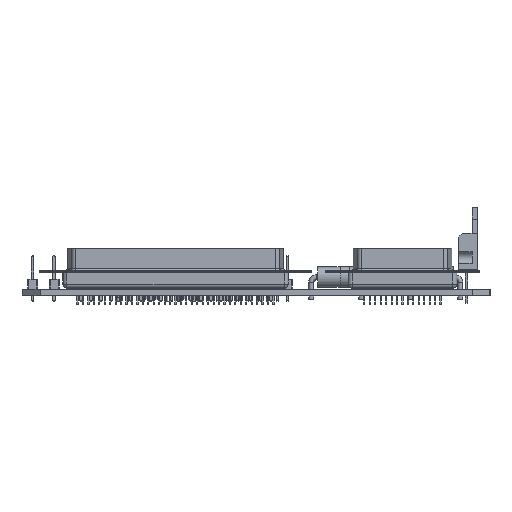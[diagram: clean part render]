
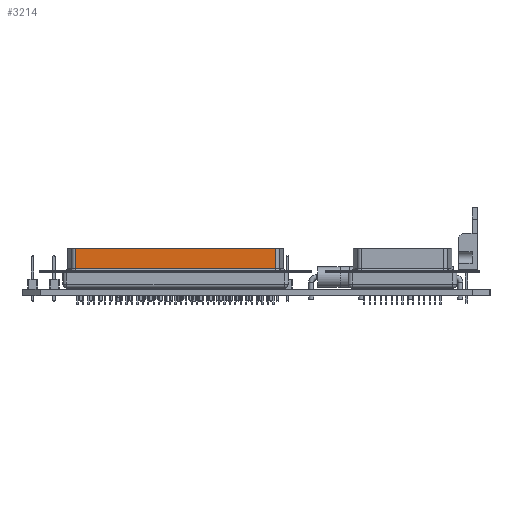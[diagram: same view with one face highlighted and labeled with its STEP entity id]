
A CAD part, front view. The second image highlights one B-rep face of the part: STEP entity #3214.
In plain terms, the highlighted planar face has unit normal (0, -1, 0).
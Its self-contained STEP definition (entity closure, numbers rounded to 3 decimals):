
#581 = CYLINDRICAL_SURFACE('',#582,1.);
#582 = AXIS2_PLACEMENT_3D('',#583,#584,#585);
#583 = CARTESIAN_POINT('',(-0.548,-4.57,4.7));
#584 = DIRECTION('',(0.,0.,1.));
#585 = DIRECTION('',(0.,-1.,0.));
#989 = CYLINDRICAL_SURFACE('',#990,0.6);
#990 = AXIS2_PLACEMENT_3D('',#991,#992,#993);
#991 = CARTESIAN_POINT('',(50.408,-6.17,5.3));
#992 = DIRECTION('',(-1.,0.,0.));
#993 = DIRECTION('',(0.,1.,0.));
#1429 = PLANE('',#1430);
#1430 = AXIS2_PLACEMENT_3D('',#1431,#1432,#1433);
#1431 = CARTESIAN_POINT('',(-0.548,-5.545,10.475));
#1432 = DIRECTION('',(0.,0.707,-0.707));
#1433 = DIRECTION('',(1.,0.,0.));
#1772 = VERTEX_POINT('',#1773);
#1773 = CARTESIAN_POINT('',(-0.548,-5.57,10.45));
#1797 = VERTEX_POINT('',#1798);
#1798 = CARTESIAN_POINT('',(-0.548,-5.57,5.3));
#1820 = EDGE_CURVE('',#1797,#1772,#1821,.T.);
#1821 = SURFACE_CURVE('',#1822,(#1826,#1833),.PCURVE_S1.);
#1822 = LINE('',#1823,#1824);
#1823 = CARTESIAN_POINT('',(-0.548,-5.57,4.7));
#1824 = VECTOR('',#1825,1.);
#1825 = DIRECTION('',(0.,0.,1.));
#1826 = PCURVE('',#581,#1827);
#1827 = DEFINITIONAL_REPRESENTATION('',(#1828),#1832);
#1828 = LINE('',#1829,#1830);
#1829 = CARTESIAN_POINT('',(6.283,0.));
#1830 = VECTOR('',#1831,1.);
#1831 = DIRECTION('',(0.,1.));
#1832 = ( GEOMETRIC_REPRESENTATION_CONTEXT(2) 
PARAMETRIC_REPRESENTATION_CONTEXT() REPRESENTATION_CONTEXT('2D SPACE',''
  ) );
#1833 = PCURVE('',#1834,#1839);
#1834 = PLANE('',#1835);
#1835 = AXIS2_PLACEMENT_3D('',#1836,#1837,#1838);
#1836 = CARTESIAN_POINT('',(51.255,-5.57,4.7));
#1837 = DIRECTION('',(0.,-1.,0.));
#1838 = DIRECTION('',(-1.,0.,0.));
#1839 = DEFINITIONAL_REPRESENTATION('',(#1840),#1844);
#1840 = LINE('',#1841,#1842);
#1841 = CARTESIAN_POINT('',(51.803,0.));
#1842 = VECTOR('',#1843,1.);
#1843 = DIRECTION('',(0.,-1.));
#1844 = ( GEOMETRIC_REPRESENTATION_CONTEXT(2) 
PARAMETRIC_REPRESENTATION_CONTEXT() REPRESENTATION_CONTEXT('2D SPACE',''
  ) );
#1922 = CYLINDRICAL_SURFACE('',#1923,1.);
#1923 = AXIS2_PLACEMENT_3D('',#1924,#1925,#1926);
#1924 = CARTESIAN_POINT('',(50.408,-4.57,4.7));
#1925 = DIRECTION('',(0.,0.,1.));
#1926 = DIRECTION('',(0.986,-0.165,0.));
#2009 = VERTEX_POINT('',#2010);
#2010 = CARTESIAN_POINT('',(50.408,-5.57,5.3));
#2034 = EDGE_CURVE('',#2009,#1797,#2035,.T.);
#2035 = SURFACE_CURVE('',#2036,(#2040,#2047),.PCURVE_S1.);
#2036 = LINE('',#2037,#2038);
#2037 = CARTESIAN_POINT('',(50.408,-5.57,5.3));
#2038 = VECTOR('',#2039,1.);
#2039 = DIRECTION('',(-1.,0.,0.));
#2040 = PCURVE('',#989,#2041);
#2041 = DEFINITIONAL_REPRESENTATION('',(#2042),#2046);
#2042 = LINE('',#2043,#2044);
#2043 = CARTESIAN_POINT('',(0.,0.));
#2044 = VECTOR('',#2045,1.);
#2045 = DIRECTION('',(0.,1.));
#2046 = ( GEOMETRIC_REPRESENTATION_CONTEXT(2) 
PARAMETRIC_REPRESENTATION_CONTEXT() REPRESENTATION_CONTEXT('2D SPACE',''
  ) );
#2047 = PCURVE('',#1834,#2048);
#2048 = DEFINITIONAL_REPRESENTATION('',(#2049),#2053);
#2049 = LINE('',#2050,#2051);
#2050 = CARTESIAN_POINT('',(0.847,-0.6));
#2051 = VECTOR('',#2052,1.);
#2052 = DIRECTION('',(1.,0.));
#2053 = ( GEOMETRIC_REPRESENTATION_CONTEXT(2) 
PARAMETRIC_REPRESENTATION_CONTEXT() REPRESENTATION_CONTEXT('2D SPACE',''
  ) );
#2727 = VERTEX_POINT('',#2728);
#2728 = CARTESIAN_POINT('',(50.408,-5.57,10.45));
#2749 = EDGE_CURVE('',#1772,#2727,#2750,.T.);
#2750 = SURFACE_CURVE('',#2751,(#2755,#2762),.PCURVE_S1.);
#2751 = LINE('',#2752,#2753);
#2752 = CARTESIAN_POINT('',(-0.548,-5.57,10.45));
#2753 = VECTOR('',#2754,1.);
#2754 = DIRECTION('',(1.,0.,0.));
#2755 = PCURVE('',#1429,#2756);
#2756 = DEFINITIONAL_REPRESENTATION('',(#2757),#2761);
#2757 = LINE('',#2758,#2759);
#2758 = CARTESIAN_POINT('',(0.,0.035));
#2759 = VECTOR('',#2760,1.);
#2760 = DIRECTION('',(1.,0.));
#2761 = ( GEOMETRIC_REPRESENTATION_CONTEXT(2) 
PARAMETRIC_REPRESENTATION_CONTEXT() REPRESENTATION_CONTEXT('2D SPACE',''
  ) );
#2762 = PCURVE('',#1834,#2763);
#2763 = DEFINITIONAL_REPRESENTATION('',(#2764),#2768);
#2764 = LINE('',#2765,#2766);
#2765 = CARTESIAN_POINT('',(51.803,-5.75));
#2766 = VECTOR('',#2767,1.);
#2767 = DIRECTION('',(-1.,0.));
#2768 = ( GEOMETRIC_REPRESENTATION_CONTEXT(2) 
PARAMETRIC_REPRESENTATION_CONTEXT() REPRESENTATION_CONTEXT('2D SPACE',''
  ) );
#3214 = ADVANCED_FACE('',(#3215),#1834,.T.);
#3215 = FACE_BOUND('',#3216,.T.);
#3216 = EDGE_LOOP('',(#3217,#3218,#3219,#3240));
#3217 = ORIENTED_EDGE('',*,*,#1820,.F.);
#3218 = ORIENTED_EDGE('',*,*,#2034,.F.);
#3219 = ORIENTED_EDGE('',*,*,#3220,.T.);
#3220 = EDGE_CURVE('',#2009,#2727,#3221,.T.);
#3221 = SURFACE_CURVE('',#3222,(#3226,#3233),.PCURVE_S1.);
#3222 = LINE('',#3223,#3224);
#3223 = CARTESIAN_POINT('',(50.408,-5.57,4.7));
#3224 = VECTOR('',#3225,1.);
#3225 = DIRECTION('',(0.,0.,1.));
#3226 = PCURVE('',#1834,#3227);
#3227 = DEFINITIONAL_REPRESENTATION('',(#3228),#3232);
#3228 = LINE('',#3229,#3230);
#3229 = CARTESIAN_POINT('',(0.847,0.));
#3230 = VECTOR('',#3231,1.);
#3231 = DIRECTION('',(0.,-1.));
#3232 = ( GEOMETRIC_REPRESENTATION_CONTEXT(2) 
PARAMETRIC_REPRESENTATION_CONTEXT() REPRESENTATION_CONTEXT('2D SPACE',''
  ) );
#3233 = PCURVE('',#1922,#3234);
#3234 = DEFINITIONAL_REPRESENTATION('',(#3235),#3239);
#3235 = LINE('',#3236,#3237);
#3236 = CARTESIAN_POINT('',(4.878,0.));
#3237 = VECTOR('',#3238,1.);
#3238 = DIRECTION('',(0.,1.));
#3239 = ( GEOMETRIC_REPRESENTATION_CONTEXT(2) 
PARAMETRIC_REPRESENTATION_CONTEXT() REPRESENTATION_CONTEXT('2D SPACE',''
  ) );
#3240 = ORIENTED_EDGE('',*,*,#2749,.F.);
